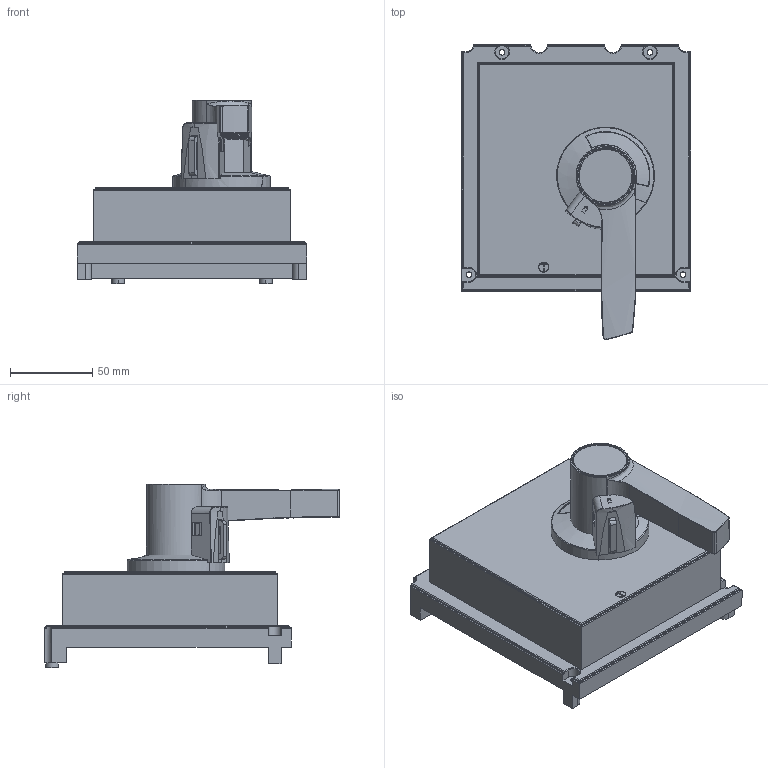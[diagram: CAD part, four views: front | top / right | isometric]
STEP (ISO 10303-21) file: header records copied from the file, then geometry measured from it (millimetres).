
FILE_DESCRIPTION (( 'STEP AP214' ), '1' );
FILE_NAME ('400???? êîðïóñ.STEP', '2025-11-25T06:51:23', ( '' ), ( '' ), 'SwSTEP 2.0', 'SolidWorks 2024', '' );
FILE_SCHEMA (( 'AUTOMOTIVE_DESIGN' ));
Length unit declared in the file: millimetre
Products named in the file (2): 400短手操新 корпус; 400短手操新 корпус .stp
Assembly tree (1 placements, depth 2):
  400短手操新 корпус
    400短手操新 корпус .stp
Bounding box: 140 x 179.88 x 111.9 mm (x, y, z)
Surface area: 205829.2 mm2 (no closed solid volume)
Topology: 0 solids, 16 shells, 1636 faces, 4416 edges, 2890 vertices
Faces by surface type: plane 1048, cylinder 476, torus 51, cone 34, bspline 24, sphere 3
Entity records: 57676 total; most frequent: CARTESIAN_POINT 18548, ORIENTED_EDGE 8828, DIRECTION 7021, EDGE_CURVE 4414, VERTEX_POINT 2890, AXIS2_PLACEMENT_3D 2433, VECTOR 2155, LINE 2155
